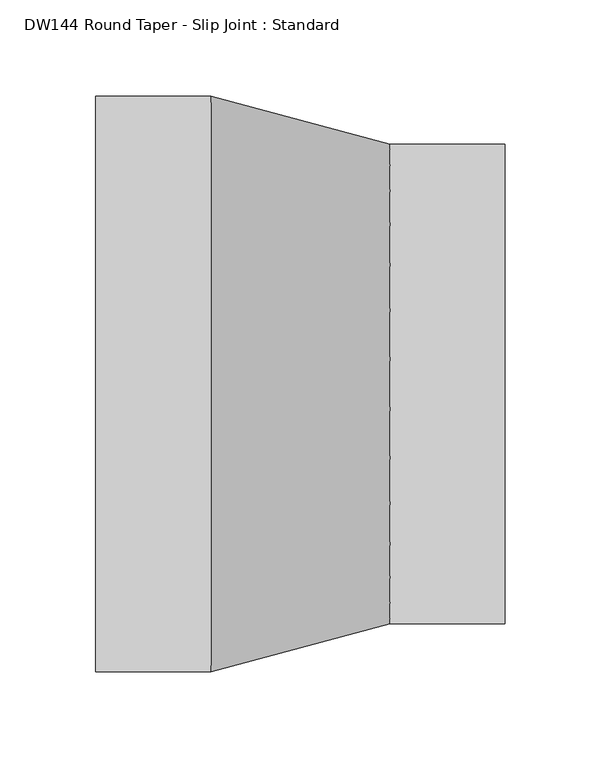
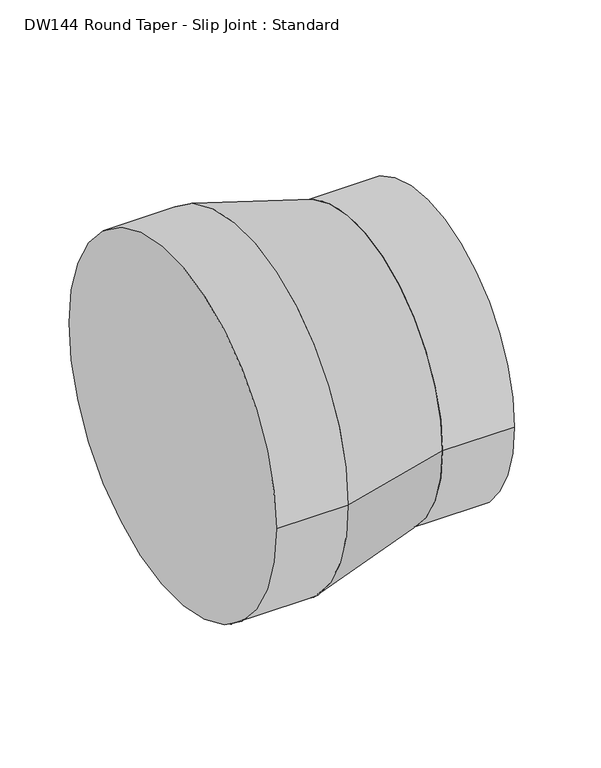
"""IFC4 building model written with IfcOpenShell, lengths in millimetres: duct fitting geometry, DW144 Round Taper - Slip Joint : Standard."""

from ifc_helpers import new_model, si_unit, point, frame, origin, origin_2d, place, context, project, spatial, polyline, circle_curve, trimmed, segment, composite_curve, outline, extrude, source, transform, mapped, element, save
from ifc_brep_helpers import plane_surface, revolved_surface, advanced_brep


def dw144_round_taper_slip_joint_standard_7b2c0993(model_context):
    return source(origin(), model_context, "Body", "SolidModel", [
        extrude(outline(composite_curve([segment(trimmed(circle_curve(origin_2d(), 125.0), [point((-125.0, 0.0))], [point((125.0, 0.0))], False, "CARTESIAN"), True, "CONTINUOUS"), segment(trimmed(circle_curve(origin_2d(), 125.0), [point((125.0, 0.0))], [point((-125.0, 0.0))], False, "CARTESIAN"), True, "CONTINUOUS")], self_intersect=False)), frame((153.3012702, 0.0, 0.0), z_axis=(1.0, 0.0, 0.0), x_axis=(0.0, 1.0, 0.0)), (0.0, 0.0, 1.0), 60.0),
        extrude(outline(composite_curve([segment(trimmed(circle_curve(origin_2d(), 150.0), [point((-150.0, 0.0))], [point((150.0, 0.0))], False, "CARTESIAN"), True, "CONTINUOUS"), segment(trimmed(circle_curve(origin_2d(), 150.0), [point((150.0, 0.0))], [point((-150.0, 0.0))], False, "CARTESIAN"), True, "CONTINUOUS")], self_intersect=False)), frame((0.0, 0.0, 0.0), z_axis=(1.0, 0.0, 0.0), x_axis=(0.0, 1.0, 0.0)), (0.0, 0.0, 1.0), 60.0),
        advanced_brep(
        [(153.3012702, -125.0, 0.0), (153.3012702, 125.0, 0.0), (60.0, -150.0, 0.0), (60.0, 150.0, 0.0)],
        [
            (0, 1, circle_curve(frame((153.3012702, 0.0, 0.0), z_axis=(1.0, 0.0, 0.0), x_axis=(0.0, -1.0, 0.0)), 125.0)),
            (1, 0, circle_curve(frame((153.3012702, 0.0, 0.0), z_axis=(1.0, 0.0, 0.0), x_axis=(0.0, 1.0, 0.0)), 125.0)),
            (2, 3, circle_curve(frame((60.0, 0.0, 0.0), z_axis=(-1.0, 0.0, 0.0), x_axis=(0.0, 1.0, 0.0)), 150.0)),
            (3, 2, circle_curve(frame((60.0, 0.0, 0.0), z_axis=(-1.0, 0.0, 0.0), x_axis=(0.0, -1.0, 0.0)), 150.0)),
            (3, 1),
            (0, 2),
        ],
        [
            plane_surface(frame((153.3012702, 0.0, 0.0), z_axis=(1.0, 0.0, 0.0), x_axis=(0.0, 0.0, -1.0))),
            plane_surface(frame((60.0, 0.0, 0.0), z_axis=(-1.0, 0.0, 0.0), x_axis=(0.0, 0.0, -1.0))),
            revolved_surface(polyline([(153.30127019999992, -124.9999999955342, 0.0), (60.0, -150.0, 0.0)]), (619.8076211, 0.0, 0.0), (-1.0, 0.0, 0.0)),
            revolved_surface(polyline([(153.30127019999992, 124.9999999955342, 0.0), (60.0, 150.0, 0.0)]), (619.8076211, 0.0, 0.0), (-1.0, 0.0, 0.0)),
        ],
        [
            (0, [[1, 2]]),
            (1, [[3, 4]]),
            (2, [[-4, 5, -1, 6]]),
            (3, [[-3, -6, -2, -5]]),
        ],
    ),
    ])


if __name__ == "__main__":
    model = new_model("IFC4")
    model_context = context("Model", 3, world=origin())
    ifc_project = project(units=[si_unit("LENGTHUNIT", "METRE", prefix="MILLI")], contexts=[model_context])
    site = spatial("IfcSite", under=ifc_project)
    building = spatial("IfcBuilding", under=site)
    placement = place(None, origin())
    dw144_round_taper_slip_joint_standard_shape = dw144_round_taper_slip_joint_standard_7b2c0993(model_context)
    element("IfcDuctFitting", 1, ObjectType="DW144 Round Taper - Slip Joint : Standard", at=placement, inside=building, context=model_context, shape_type="MappedRepresentation", body=[
        mapped(dw144_round_taper_slip_joint_standard_shape, transform((0.0, 0.0, 0.0), x_axis=(1.0, 0.0, 0.0), y_axis=(0.0, 1.0, 0.0), z_axis=(0.0, 0.0, 1.0))),
    ])
    save(model, "model.ifc")
